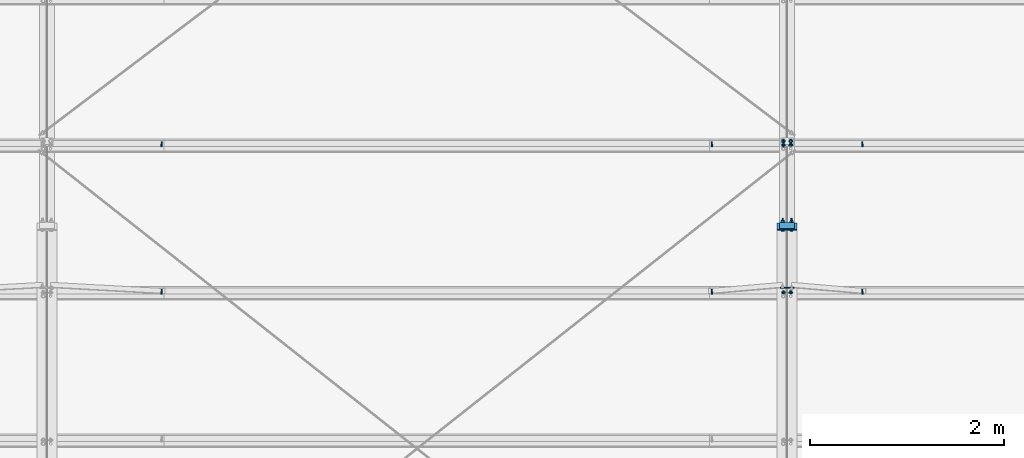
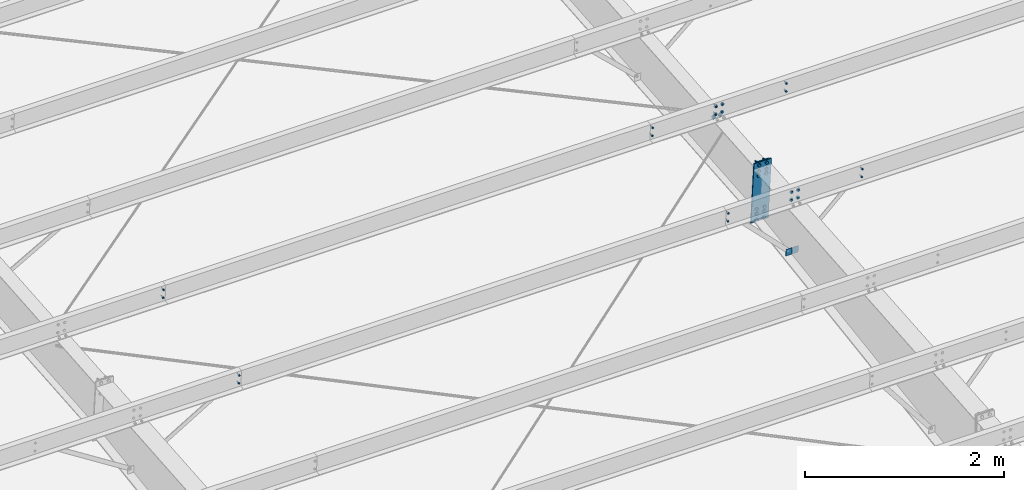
# One storey, part 68 of 185: 15 mechanical fasteners, 4 discrete accessories, 7 elements without a shape of their own.
"""IFC2X3 building model written with IfcOpenShell, lengths in millimetres."""

from ifc_helpers import new_model, si_unit, frame, origin_with_axes, origin_2d_with_axis, place, context, subcontext, project, spatial, polyline, rectangle, circle, outline, extrude, source, transform, mapped, material, type_object, element, aggregate, save


model = new_model("IFC2X3")

# Units and contexts
model_context = context("Model", 3, precision=1e-05, world=origin_with_axes())
body_context = subcontext(model_context, "Body", "Model", "MODEL_VIEW")
ifc_project = project(units=[si_unit("LENGTHUNIT", "METRE", prefix="MILLI"), si_unit("AREAUNIT", "SQUARE_METRE"), si_unit("VOLUMEUNIT", "CUBIC_METRE"), si_unit("MASSUNIT", "GRAM", prefix="KILO"), si_unit("TIMEUNIT", "SECOND"), si_unit("PLANEANGLEUNIT", "RADIAN"), si_unit("SOLIDANGLEUNIT", "STERADIAN"), si_unit("THERMODYNAMICTEMPERATUREUNIT", "DEGREE_CELSIUS"), si_unit("LUMINOUSINTENSITYUNIT", "LUMEN")], contexts=[model_context])

# Site, building, storey
site_placement = place(None, origin_with_axes())
site = spatial("IfcSite", under=ifc_project, at=site_placement, Name="Undefined", CompositionType="ELEMENT")
building_placement = place(site_placement, origin_with_axes())
building = spatial("IfcBuilding", under=site, at=building_placement, Name="Undefined", CompositionType="ELEMENT")
storey_placement = place(building_placement, origin_with_axes())
storey = spatial("IfcBuildingStorey", under=building, at=storey_placement, Name="Undefined", CompositionType="ELEMENT", Elevation=0.0)

# Assembly, mechanical fastener
assembly_1_placement = place(storey_placement, origin_with_axes())
assembly_1 = element("IfcElementAssembly", 1, at=assembly_1_placement, inside=storey, Name="Steel Assembly", AssemblyPlace="NOTDEFINED", PredefinedType="RIGID_FRAME")
ifc_material_1 = material(Name="Undefined")
discrete_accessory_type_1 = type_object("IfcDiscreteAccessoryType", Name="Bolt assembly")
shared_shape_1 = source(origin_with_axes(), body_context, "Body", "SweptSolid", [
    extrude(circle(Radius=7.14374971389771, at=origin_2d_with_axis()), frame((0.0, -1.59000001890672, 0.0), z_axis=(0.0, 1.0, 0.0), x_axis=(1.0, 0.0, 0.0)), (0.0, 0.0, 1.0), 3.3),
    extrude(circle(Radius=13.4937496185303, at=origin_2d_with_axis()), frame((0.0, -5.5587500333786, 0.0), z_axis=(0.0, 1.0, 0.0), x_axis=(1.0, 0.0, 0.0)), (0.0, 0.0, 1.0), 4.0),
    extrude(circle(Radius=22.2250003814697, at=origin_2d_with_axis()), frame((0.0, 1.5900000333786, 0.0), z_axis=(0.0, 1.0, 0.0), x_axis=(1.0, 0.0, 0.0)), (0.0, 0.0, 1.0), 7.9),
    extrude(outline(polyline([(12.8316099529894, 0.0), (6.4158049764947, 11.1125001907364), (-6.4158049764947, 11.1125001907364), (-12.8316099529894, 0.0), (-6.4158049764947, -11.1125001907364), (6.4158049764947, -11.1125001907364), (12.8316099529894, 0.0)])), frame((0.0, 9.5275000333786, 0.0), z_axis=(0.0, 1.0, 0.0), x_axis=(1.0, 0.0, 0.0)), (0.0, 0.0, 1.0), 12.3),
])
mechanical_fastener_1_placement = place(assembly_1_placement, frame((14897.1, 6590.05757436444, 6594.19538192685), z_axis=(1.0, 0.0, 0.0), x_axis=(0.0, 0.0830454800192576, -0.996545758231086)))
mechanical_fastener_1 = element("IfcMechanicalFastener", 2, at=mechanical_fastener_1_placement, type_object=discrete_accessory_type_1, material=ifc_material_1, Name="Bolt assembly", NominalDiameter=12.6999998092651, NominalLength=38.0999984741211, context=body_context, shape_type="MappedRepresentation", body=[
    mapped(shared_shape_1, transform((0.0, 0.0, 0.0))),
    mapped(shared_shape_1, transform((101.599998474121, 0.0, 0.0))),
])

assembly_2_placement = place(storey_placement, origin_with_axes())
assembly_2 = element("IfcElementAssembly", 3, at=assembly_2_placement, inside=storey, Name="Steel Assembly", AssemblyPlace="NOTDEFINED", PredefinedType="RIGID_FRAME")
mechanical_fastener_2_placement = place(assembly_2_placement, frame((14820.9, 6590.05757430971, 6594.19538268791), z_axis=(1.0, 0.0, 0.0), x_axis=(0.0, 0.0830454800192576, -0.996545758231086)))
mechanical_fastener_2 = element("IfcMechanicalFastener", 4, at=mechanical_fastener_2_placement, type_object=discrete_accessory_type_1, material=ifc_material_1, Name="Bolt assembly", NominalDiameter=12.6999998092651, NominalLength=38.0999984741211, context=body_context, shape_type="MappedRepresentation", body=[
    mapped(shared_shape_1, transform((0.0, 0.0, 0.0))),
    mapped(shared_shape_1, transform((101.599998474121, 0.0, 0.0))),
])

assembly_3_placement = place(storey_placement, origin_with_axes())
assembly_3 = element("IfcElementAssembly", 5, at=assembly_3_placement, inside=storey, Name="Steel Assembly", AssemblyPlace="NOTDEFINED", PredefinedType="RIGID_FRAME")
mechanical_fastener_3_placement = place(assembly_3_placement, frame((14897.1, 5071.32183882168, 6467.63407037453), z_axis=(1.0, 0.0, 0.0), x_axis=(0.0, 0.0830454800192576, -0.996545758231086)))
mechanical_fastener_3 = element("IfcMechanicalFastener", 6, at=mechanical_fastener_3_placement, type_object=discrete_accessory_type_1, material=ifc_material_1, Name="Bolt assembly", NominalDiameter=12.6999998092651, NominalLength=38.0999984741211, context=body_context, shape_type="MappedRepresentation", body=[
    mapped(shared_shape_1, transform((0.0, 0.0, 0.0))),
    mapped(shared_shape_1, transform((101.599998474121, 0.0, 0.0))),
])

assembly_4_placement = place(storey_placement, origin_with_axes())
assembly_4 = element("IfcElementAssembly", 7, at=assembly_4_placement, inside=storey, Name="Steel Assembly", AssemblyPlace="NOTDEFINED", PredefinedType="RIGID_FRAME")
mechanical_fastener_4_placement = place(assembly_4_placement, frame((14820.9, 5071.32183882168, 6467.63407037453), z_axis=(1.0, 0.0, 0.0), x_axis=(0.0, 0.0830454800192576, -0.996545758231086)))
mechanical_fastener_4 = element("IfcMechanicalFastener", 8, at=mechanical_fastener_4_placement, type_object=discrete_accessory_type_1, material=ifc_material_1, Name="Bolt assembly", NominalDiameter=12.6999998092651, NominalLength=38.0999984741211, context=body_context, shape_type="MappedRepresentation", body=[
    mapped(shared_shape_1, transform((0.0, 0.0, 0.0))),
    mapped(shared_shape_1, transform((101.599998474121, 0.0, 0.0))),
])

# Assembly, discrete accessories
assembly_5_placement = place(storey_placement, origin_with_axes())
assembly_5 = element("IfcElementAssembly", 9, at=assembly_5_placement, inside=storey, Name="Steel Assembly", AssemblyPlace="NOTDEFINED", PredefinedType="RIGID_FRAME")
ifc_material_2 = material(Name="STEEL/55")
discrete_accessory_type_2 = type_object("IfcDiscreteAccessoryType", Name="FLANGE BRACE FLIP")
discrete_accessory_1_placement = place(assembly_5_placement, frame((14861.381, 5133.65232140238, 5699.10123572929), z_axis=(0.0, -0.0830454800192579, 0.996545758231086), x_axis=(1.0, 0.0, 0.0)))
discrete_accessory_1 = element("IfcDiscreteAccessory", 10, at=discrete_accessory_1_placement, type_object=discrete_accessory_type_2, material=ifc_material_2, Name="FLANGE BRACE FLIP", ObjectType="PL1/8\"X2 3/4\"", context=body_context, shape_type="SweptSolid", body=[
    extrude(rectangle(XDim=3.416, YDim=85.725, at=origin_2d_with_axis()), frame((69.8499999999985, 0.0, 0.0), z_axis=(-1.0, 0.0, 0.0), x_axis=(0.0, -1.0, 0.0)), (0.0, 0.0, 1.0), 69.9),
])
discrete_accessory_2_placement = place(assembly_5_placement, frame((14856.619, 5133.65232140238, 5699.10123572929), z_axis=(0.0, -0.0830454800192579, 0.996545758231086), x_axis=(-1.0, 0.0, 0.0)))
discrete_accessory_2 = element("IfcDiscreteAccessory", 11, at=discrete_accessory_2_placement, type_object=discrete_accessory_type_2, material=ifc_material_2, Name="FLANGE BRACE FLIP", ObjectType="PL1/8\"X2 3/4\"", context=body_context, shape_type="SweptSolid", body=[
    extrude(rectangle(XDim=3.416, YDim=85.725, at=origin_2d_with_axis()), frame((69.8499999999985, 0.0, 0.0), z_axis=(-1.0, 0.0, 0.0), x_axis=(0.0, -1.0, 0.0)), (0.0, 0.0, 1.0), 69.9),
])

# Mechanical fastener
shared_shape_2 = source(origin_with_axes(), body_context, "Body", "SweptSolid", [
    extrude(circle(Radius=7.14374971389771, at=origin_2d_with_axis()), frame((0.0, -1.69000003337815, 0.0), z_axis=(0.0, 1.0, 0.0), x_axis=(1.0, 0.0, 0.0)), (0.0, 0.0, 1.0), 3.3),
    extrude(circle(Radius=7.14374971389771, at=origin_2d_with_axis()), frame((0.0, -1.4900000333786, 0.0), z_axis=(0.0, 1.0, 0.0), x_axis=(1.0, 0.0, 0.0)), (0.0, 0.0, 1.0), 3.2),
    extrude(outline(polyline([(10.9985221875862, 0.0), (5.4992610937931, 9.52499961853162), (-5.4992610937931, 9.52499961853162), (-10.9985221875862, 0.0), (-5.4992610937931, -9.52499961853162), (5.4992610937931, -9.52499961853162), (10.9985221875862, 0.0)])), frame((0.0, -11.1149996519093, 0.0), z_axis=(0.0, 1.0, 0.0), x_axis=(1.0, 0.0, 0.0)), (0.0, 0.0, 1.0), 9.5),
    extrude(circle(Radius=6.34999990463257, at=origin_2d_with_axis()), frame((0.0, -1.59000001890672, 0.0), z_axis=(0.0, 1.0, 0.0), x_axis=(1.0, 0.0, 0.0)), (0.0, 0.0, 1.0), 38.1),
    extrude(outline(polyline([(12.8316099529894, 0.0), (6.4158049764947, 11.1125001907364), (-6.4158049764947, 11.1125001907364), (-12.8316099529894, 0.0), (-6.4158049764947, -11.1125001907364), (6.4158049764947, -11.1125001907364), (12.8316099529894, 0.0)])), frame((0.0, 1.5900000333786, 0.0), z_axis=(0.0, 1.0, 0.0), x_axis=(1.0, 0.0, 0.0)), (0.0, 0.0, 1.0), 12.3),
])
mechanical_fastener_5_placement = place(assembly_1_placement, frame((8420.1, 6590.05757436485, 6594.19538193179), z_axis=(1.0, 0.0, 0.0), x_axis=(0.0, 0.0830454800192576, -0.996545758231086)))
mechanical_fastener_5 = element("IfcMechanicalFastener", 12, at=mechanical_fastener_5_placement, type_object=discrete_accessory_type_1, material=ifc_material_1, Name="Bolt assembly", NominalDiameter=12.6999998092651, NominalLength=38.0999984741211, context=body_context, shape_type="MappedRepresentation", body=[
    mapped(shared_shape_2, transform((0.0, 0.0, 0.0))),
    mapped(shared_shape_2, transform((101.599998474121, 0.0, 0.0))),
])

aggregate(assembly_1, [mechanical_fastener_5, mechanical_fastener_1])

mechanical_fastener_6_placement = place(assembly_3_placement, frame((8420.1, 5071.321838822, 6467.63407037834), z_axis=(1.0, 0.0, 0.0), x_axis=(0.0, 0.0830454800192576, -0.996545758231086)))
mechanical_fastener_6 = element("IfcMechanicalFastener", 13, at=mechanical_fastener_6_placement, type_object=discrete_accessory_type_1, material=ifc_material_1, Name="Bolt assembly", NominalDiameter=12.6999998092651, NominalLength=38.0999984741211, context=body_context, shape_type="MappedRepresentation", body=[
    mapped(shared_shape_2, transform((0.0, 0.0, 0.0))),
    mapped(shared_shape_2, transform((101.599998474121, 0.0, 0.0))),
])

aggregate(assembly_3, [mechanical_fastener_6, mechanical_fastener_3])

# Assembly, mechanical fastener
assembly_6_placement = place(storey_placement, origin_with_axes())
assembly_6 = element("IfcElementAssembly", 14, at=assembly_6_placement, inside=storey, Name="Steel Assembly", AssemblyPlace="NOTDEFINED", PredefinedType="RIGID_FRAME")
shared_shape_3 = source(origin_with_axes(), body_context, "Body", "SweptSolid", [
    extrude(circle(Radius=7.14374971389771, at=origin_2d_with_axis()), frame((0.0, -4.65999985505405, 0.0), z_axis=(0.0, 1.0, 0.0), x_axis=(1.0, 0.0, 0.0)), (0.0, 0.0, 1.0), 4.8),
    extrude(circle(Radius=7.14374971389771, at=origin_2d_with_axis()), frame((0.0, -0.0238014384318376, 0.0), z_axis=(0.0, 1.0, 0.0), x_axis=(1.0, 0.0, 0.0)), (0.0, 0.0, 1.0), 8.0),
    extrude(outline(polyline([(12.8316099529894, 0.0), (6.4158049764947, 11.1125001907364), (-6.4158049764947, 11.1125001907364), (-12.8316099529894, 0.0), (-6.4158049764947, -11.1125001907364), (6.4158049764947, -11.1125001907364), (12.8316099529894, 0.0)])), frame((0.0, -12.697499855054, 0.0), z_axis=(0.0, 1.0, 0.0), x_axis=(1.0, 0.0, 0.0)), (0.0, 0.0, 1.0), 7.9),
    extrude(circle(Radius=6.34999990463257, at=origin_2d_with_axis()), frame((0.0, -4.75999985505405, 0.0), z_axis=(0.0, 1.0, 0.0), x_axis=(1.0, 0.0, 0.0)), (0.0, 0.0, 1.0), 50.8),
    extrude(circle(Radius=22.2250003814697, at=origin_2d_with_axis()), frame((0.0, 7.95019856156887, 0.0), z_axis=(0.0, 1.0, 0.0), x_axis=(1.0, 0.0, 0.0)), (0.0, 0.0, 1.0), 7.9),
    extrude(outline(polyline([(12.8316099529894, 0.0), (6.4158049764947, 11.1125001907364), (-6.4158049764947, 11.1125001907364), (-12.8316099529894, 0.0), (-6.4158049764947, -11.1125001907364), (6.4158049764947, -11.1125001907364), (12.8316099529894, 0.0)])), frame((0.0, 15.8876985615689, 0.0), z_axis=(0.0, 1.0, 0.0), x_axis=(1.0, 0.0, 0.0)), (0.0, 0.0, 1.0), 12.3),
])
mechanical_fastener_7_placement = place(assembly_6_placement, frame((14859.0, 6640.68209888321, 6445.4858411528), z_axis=(-1.0, 0.0, 0.0), x_axis=(0.0, 0.996545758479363, 0.0830454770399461)))
mechanical_fastener_7 = element("IfcMechanicalFastener", 15, at=mechanical_fastener_7_placement, type_object=discrete_accessory_type_1, material=ifc_material_1, Name="Bolt assembly", NominalDiameter=12.6999998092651, NominalLength=50.7999992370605, context=body_context, shape_type="MappedRepresentation", body=[
    mapped(shared_shape_3, transform((0.0, 0.0, -38.0999984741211))),
    mapped(shared_shape_3, transform((0.0, 0.0, 38.0999984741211))),
])

# Assembly, mechanical fasteners
assembly_7_placement = place(storey_placement, origin_with_axes())
assembly_7 = element("IfcElementAssembly", 16, at=assembly_7_placement, inside=storey, Name="Steel Assembly", AssemblyPlace="NOTDEFINED", PredefinedType="RIGID_FRAME")
shared_shape_4 = source(origin_with_axes(), body_context, "Body", "SweptSolid", [
    extrude(circle(Radius=7.14374971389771, at=origin_2d_with_axis()), frame((0.0, 0.0, 0.0), z_axis=(0.0, 1.0, 0.0), x_axis=(1.0, 0.0, 0.0)), (0.0, 0.0, 1.0), 4.9),
    extrude(outline(polyline([(12.8316099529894, 0.0), (6.4158049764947, 11.1125001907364), (-6.4158049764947, 11.1125001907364), (-12.8316099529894, 0.0), (-6.4158049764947, -11.1125001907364), (6.4158049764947, -11.1125001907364), (12.8316099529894, 0.0)])), frame((0.0, 4.76000382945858, 0.0), z_axis=(0.0, 1.0, 0.0), x_axis=(1.0, 0.0, 0.0)), (0.0, 0.0, 1.0), 12.3),
])
mechanical_fastener_8_placement = place(assembly_7_placement, frame((14897.1, 6590.05757436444, 6594.19538192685), z_axis=(1.0, 0.0, 0.0), x_axis=(0.0, 0.0830454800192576, -0.996545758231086)))
mechanical_fastener_8 = element("IfcMechanicalFastener", 17, at=mechanical_fastener_8_placement, type_object=discrete_accessory_type_1, material=ifc_material_1, Name="Bolt assembly", NominalDiameter=12.6999998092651, NominalLength=50.7999992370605, context=body_context, shape_type="MappedRepresentation", body=[
    mapped(shared_shape_4, transform((0.0, 0.0, 0.0))),
    mapped(shared_shape_4, transform((101.599998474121, 0.0, 0.0))),
])
shared_shape_5 = source(origin_with_axes(), body_context, "Body", "SweptSolid", [
    extrude(circle(Radius=7.14374971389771, at=origin_2d_with_axis()), frame((0.0, 0.0, 0.0), z_axis=(0.0, 1.0, 0.0), x_axis=(1.0, 0.0, 0.0)), (0.0, 0.0, 1.0), 4.9),
    extrude(outline(polyline([(12.8316099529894, 0.0), (6.4158049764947, 11.1125001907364), (-6.4158049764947, 11.1125001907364), (-12.8316099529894, 0.0), (-6.4158049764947, -11.1125001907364), (6.4158049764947, -11.1125001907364), (12.8316099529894, 0.0)])), frame((0.0, -11.9062498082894, 0.0), z_axis=(0.0, 1.0, 0.0), x_axis=(1.0, 0.0, 0.0)), (0.0, 0.0, 1.0), 7.9),
    extrude(circle(Radius=6.34999990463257, at=origin_2d_with_axis()), frame((0.0, -3.96874999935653, 0.0), z_axis=(0.0, 1.0, 0.0), x_axis=(1.0, 0.0, 0.0)), (0.0, 0.0, 1.0), 50.8),
    extrude(circle(Radius=13.4937496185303, at=origin_2d_with_axis()), frame((0.0, -3.96874999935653, 0.0), z_axis=(0.0, 1.0, 0.0), x_axis=(1.0, 0.0, 0.0)), (0.0, 0.0, 1.0), 4.0),
    extrude(circle(Radius=22.2250003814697, at=origin_2d_with_axis()), frame((0.0, 4.76000382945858, 0.0), z_axis=(0.0, 1.0, 0.0), x_axis=(1.0, 0.0, 0.0)), (0.0, 0.0, 1.0), 7.9),
    extrude(outline(polyline([(12.8316099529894, 0.0), (6.4158049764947, 11.1125001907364), (-6.4158049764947, 11.1125001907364), (-12.8316099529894, 0.0), (-6.4158049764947, -11.1125001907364), (6.4158049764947, -11.1125001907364), (12.8316099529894, 0.0)])), frame((0.0, 12.6975038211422, 0.0), z_axis=(0.0, 1.0, 0.0), x_axis=(1.0, 0.0, 0.0)), (0.0, 0.0, 1.0), 12.3),
])
mechanical_fastener_9_placement = place(assembly_7_placement, frame((14820.9, 6590.05757430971, 6594.19538268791), z_axis=(1.0, 0.0, 0.0), x_axis=(0.0, 0.0830454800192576, -0.996545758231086)))
mechanical_fastener_9 = element("IfcMechanicalFastener", 18, at=mechanical_fastener_9_placement, type_object=discrete_accessory_type_1, material=ifc_material_1, Name="Bolt assembly", NominalDiameter=12.6999998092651, NominalLength=50.7999992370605, context=body_context, shape_type="MappedRepresentation", body=[
    mapped(shared_shape_5, transform((0.0, 0.0, 0.0))),
    mapped(shared_shape_5, transform((101.599998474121, 0.0, 0.0))),
])
aggregate(assembly_7, [mechanical_fastener_8, mechanical_fastener_9])

# Mechanical fastener
shared_shape_6 = source(origin_with_axes(), body_context, "Body", "SweptSolid", [
    extrude(circle(Radius=7.14374971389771, at=origin_2d_with_axis()), frame((0.0, -1.4900000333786, 0.0), z_axis=(0.0, 1.0, 0.0), x_axis=(1.0, 0.0, 0.0)), (0.0, 0.0, 1.0), 3.2),
    extrude(circle(Radius=7.14374971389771, at=origin_2d_with_axis()), frame((0.0, -1.4900000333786, 0.0), z_axis=(0.0, 1.0, 0.0), x_axis=(1.0, 0.0, 0.0)), (0.0, 0.0, 1.0), 3.2),
    extrude(outline(polyline([(10.9985221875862, 0.0), (5.4992610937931, 9.52499961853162), (-5.4992610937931, 9.52499961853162), (-10.9985221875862, 0.0), (-5.4992610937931, -9.52499961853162), (5.4992610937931, -9.52499961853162), (10.9985221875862, 0.0)])), frame((0.0, -11.1149996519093, 0.0), z_axis=(0.0, 1.0, 0.0), x_axis=(1.0, 0.0, 0.0)), (0.0, 0.0, 1.0), 9.5),
    extrude(circle(Radius=6.34999990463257, at=origin_2d_with_axis()), frame((0.0, -1.59000001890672, 0.0), z_axis=(0.0, 1.0, 0.0), x_axis=(1.0, 0.0, 0.0)), (0.0, 0.0, 1.0), 38.1),
    extrude(outline(polyline([(12.8316099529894, 0.0), (6.4158049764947, 11.1125001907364), (-6.4158049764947, 11.1125001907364), (-12.8316099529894, 0.0), (-6.4158049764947, -11.1125001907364), (6.4158049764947, -11.1125001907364), (12.8316099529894, 0.0)])), frame((0.0, 1.5900000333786, 0.0), z_axis=(0.0, 1.0, 0.0), x_axis=(1.0, 0.0, 0.0)), (0.0, 0.0, 1.0), 12.3),
])
mechanical_fastener_10_placement = place(assembly_2_placement, frame((15633.7, 6590.05757436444, 6594.19538192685), z_axis=(1.0, 0.0, 0.0), x_axis=(0.0, 0.0830454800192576, -0.996545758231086)))
mechanical_fastener_10 = element("IfcMechanicalFastener", 19, at=mechanical_fastener_10_placement, type_object=discrete_accessory_type_1, material=ifc_material_1, Name="Bolt assembly", NominalDiameter=12.6999998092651, NominalLength=38.0999984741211, context=body_context, shape_type="MappedRepresentation", body=[
    mapped(shared_shape_6, transform((0.0, 0.0, 0.0))),
    mapped(shared_shape_6, transform((101.599998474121, 0.0, 0.0))),
])

mechanical_fastener_11_placement = place(assembly_2_placement, frame((14084.3, 6590.05757436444, 6594.19538192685), z_axis=(1.0, 0.0, 0.0), x_axis=(0.0, 0.0830454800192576, -0.996545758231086)))
mechanical_fastener_11 = element("IfcMechanicalFastener", 20, at=mechanical_fastener_11_placement, type_object=discrete_accessory_type_1, material=ifc_material_1, Name="Bolt assembly", NominalDiameter=12.6999998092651, NominalLength=38.0999984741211, context=body_context, shape_type="MappedRepresentation", body=[
    mapped(shared_shape_6, transform((0.0, 0.0, 0.0))),
    mapped(shared_shape_6, transform((101.599998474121, 0.0, 0.0))),
])

aggregate(assembly_2, [mechanical_fastener_2, mechanical_fastener_10, mechanical_fastener_11])

mechanical_fastener_12_placement = place(assembly_4_placement, frame((15633.7, 5071.32183882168, 6467.63407037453), z_axis=(1.0, 0.0, 0.0), x_axis=(0.0, 0.0830454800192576, -0.996545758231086)))
mechanical_fastener_12 = element("IfcMechanicalFastener", 21, at=mechanical_fastener_12_placement, type_object=discrete_accessory_type_1, material=ifc_material_1, Name="Bolt assembly", NominalDiameter=12.6999998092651, NominalLength=38.0999984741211, context=body_context, shape_type="MappedRepresentation", body=[
    mapped(shared_shape_6, transform((0.0, 0.0, 0.0))),
    mapped(shared_shape_6, transform((101.599998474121, 0.0, 0.0))),
])

mechanical_fastener_13_placement = place(assembly_4_placement, frame((14084.3, 5071.32183882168, 6467.63407037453), z_axis=(1.0, 0.0, 0.0), x_axis=(0.0, 0.0830454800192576, -0.996545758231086)))
mechanical_fastener_13 = element("IfcMechanicalFastener", 22, at=mechanical_fastener_13_placement, type_object=discrete_accessory_type_1, material=ifc_material_1, Name="Bolt assembly", NominalDiameter=12.6999998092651, NominalLength=38.0999984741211, context=body_context, shape_type="MappedRepresentation", body=[
    mapped(shared_shape_6, transform((0.0, 0.0, 0.0))),
    mapped(shared_shape_6, transform((101.599998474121, 0.0, 0.0))),
])

aggregate(assembly_4, [mechanical_fastener_4, mechanical_fastener_12, mechanical_fastener_13])

# Discrete accessory
discrete_accessory_type_3 = type_object("IfcDiscreteAccessoryType", Name="Start Splice Plate")
discrete_accessory_3_placement = place(assembly_6_placement, frame((14859.0, 5736.98021246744, 6441.84972626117), z_axis=(1.0, 0.0, 0.0), x_axis=(0.0, 0.0830454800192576, -0.996545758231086)))
discrete_accessory_3 = element("IfcDiscreteAccessory", 23, at=discrete_accessory_3_placement, type_object=discrete_accessory_type_3, material=ifc_material_2, Name="Start Splice Plate", ObjectType="PL3/8\"X6\"", context=body_context, shape_type="SweptSolid", body=[
    extrude(rectangle(XDim=9.652, YDim=152.4, at=origin_2d_with_axis()), frame((768.349996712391, 0.0, 0.0), z_axis=(-1.0, 0.0, 0.0), x_axis=(0.0, -1.0, 0.0)), (0.0, 0.0, 1.0), 768.3),
])

aggregate(assembly_6, [mechanical_fastener_7, discrete_accessory_3])

discrete_accessory_type_4 = type_object("IfcDiscreteAccessoryType", Name="End Splice Plate")
discrete_accessory_4_placement = place(assembly_5_placement, frame((14859.0, 5725.84281707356, 6440.9216099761), z_axis=(1.0, 0.0, 0.0), x_axis=(0.0, 0.0830454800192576, -0.996545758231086)))
discrete_accessory_4 = element("IfcDiscreteAccessory", 24, at=discrete_accessory_4_placement, type_object=discrete_accessory_type_4, material=ifc_material_2, Name="End Splice Plate", ObjectType="FL1/2\"X8\"", context=body_context, shape_type="SweptSolid", body=[
    extrude(rectangle(XDim=12.7, YDim=203.2, at=origin_2d_with_axis()), frame((768.349996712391, 0.0, 0.0), z_axis=(-1.0, 0.0, 0.0), x_axis=(0.0, -1.0, 0.0)), (0.0, 0.0, 1.0), 768.3),
])

# Mechanical fastener
shared_shape_7 = source(origin_with_axes(), body_context, "Body", "SweptSolid", [
    extrude(circle(Radius=10.3187494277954, at=origin_2d_with_axis()), frame((0.0, -0.1, 0.0), z_axis=(0.0, 1.0, 0.0), x_axis=(1.0, 0.0, 0.0)), (0.0, 0.0, 1.0), 9.8),
    extrude(circle(Radius=10.3187494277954, at=origin_2d_with_axis()), frame((0.0, -12.5999999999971, 0.0), z_axis=(0.0, 1.0, 0.0), x_axis=(1.0, 0.0, 0.0)), (0.0, 0.0, 1.0), 12.7),
    extrude(outline(polyline([(18.3308710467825, 0.0), (9.16543552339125, 15.8750000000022), (-9.16543552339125, 15.8750000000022), (-18.3308710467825, 0.0), (-9.16543552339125, -15.8750000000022), (9.16543552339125, -15.8750000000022), (18.3308710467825, 0.0)])), frame((0.0, -24.6062499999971, 0.0), z_axis=(0.0, 1.0, 0.0), x_axis=(1.0, 0.0, 0.0)), (0.0, 0.0, 1.0), 11.9),
    extrude(circle(Radius=9.52499961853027, at=origin_2d_with_axis()), frame((0.0, -12.6999999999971, 0.0), z_axis=(0.0, 1.0, 0.0), x_axis=(1.0, 0.0, 0.0)), (0.0, 0.0, 1.0), 69.8),
    extrude(circle(Radius=22.2250003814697, at=origin_2d_with_axis()), frame((0.0, 9.65200009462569, 0.0), z_axis=(0.0, 1.0, 0.0), x_axis=(1.0, 0.0, 0.0)), (0.0, 0.0, 1.0), 7.9),
    extrude(outline(polyline([(18.3308710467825, 0.0), (9.16543552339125, 15.8750000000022), (-9.16543552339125, 15.8750000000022), (-18.3308710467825, 0.0), (-9.16543552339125, -15.8750000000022), (9.16543552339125, -15.8750000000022), (18.3308710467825, 0.0)])), frame((0.0, 17.5895000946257, 0.0), z_axis=(0.0, 1.0, 0.0), x_axis=(1.0, 0.0, 0.0)), (0.0, 0.0, 1.0), 19.0),
])
mechanical_fastener_14_placement = place(assembly_5_placement, frame((14859.0, 5793.342183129, 5707.39334435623), z_axis=(-1.0, 0.0, 0.0), x_axis=(0.0, -0.0830454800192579, 0.996545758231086)))
mechanical_fastener_14 = element("IfcMechanicalFastener", 25, at=mechanical_fastener_14_placement, type_object=discrete_accessory_type_1, material=ifc_material_1, Name="Bolt assembly", NominalDiameter=19.0499992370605, NominalLength=69.8499984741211, context=body_context, shape_type="MappedRepresentation", body=[
    mapped(shared_shape_7, transform((0.0, 0.0, -44.4500007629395))),
    mapped(shared_shape_7, transform((79.3750000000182, 6.18456397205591e-11, -44.4500007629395))),
    mapped(shared_shape_7, transform((136.524993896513, 1.0550138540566e-10, -44.4500007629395))),
    mapped(shared_shape_7, transform((0.0, 0.0, 44.4500007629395))),
    mapped(shared_shape_7, transform((79.3750000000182, 6.18456397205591e-11, 44.4500007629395))),
    mapped(shared_shape_7, transform((136.524993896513, 1.0550138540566e-10, 44.4500007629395))),
])

mechanical_fastener_15_placement = place(assembly_5_placement, frame((14859.0, 5734.80757653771, 6409.80862204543), z_axis=(1.0, 0.0, 0.0), x_axis=(0.0, 0.0830454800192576, -0.996545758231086)))
mechanical_fastener_15 = element("IfcMechanicalFastener", 26, at=mechanical_fastener_15_placement, type_object=discrete_accessory_type_1, material=ifc_material_1, Name="Bolt assembly", NominalDiameter=19.0499992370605, NominalLength=69.8499984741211, context=body_context, shape_type="MappedRepresentation", body=[
    mapped(shared_shape_7, transform((0.0, 0.0, -44.4500007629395))),
    mapped(shared_shape_7, transform((79.3750000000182, 6.18456397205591e-11, -44.4500007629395))),
    mapped(shared_shape_7, transform((136.524993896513, 1.0550138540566e-10, -44.4500007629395))),
    mapped(shared_shape_7, transform((0.0, 0.0, 44.4500007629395))),
    mapped(shared_shape_7, transform((79.3750000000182, 6.18456397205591e-11, 44.4500007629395))),
    mapped(shared_shape_7, transform((136.524993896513, 1.0550138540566e-10, 44.4500007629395))),
])

aggregate(assembly_5, [discrete_accessory_1, discrete_accessory_2, mechanical_fastener_14, mechanical_fastener_15, discrete_accessory_4])

save(model, "model.ifc")
